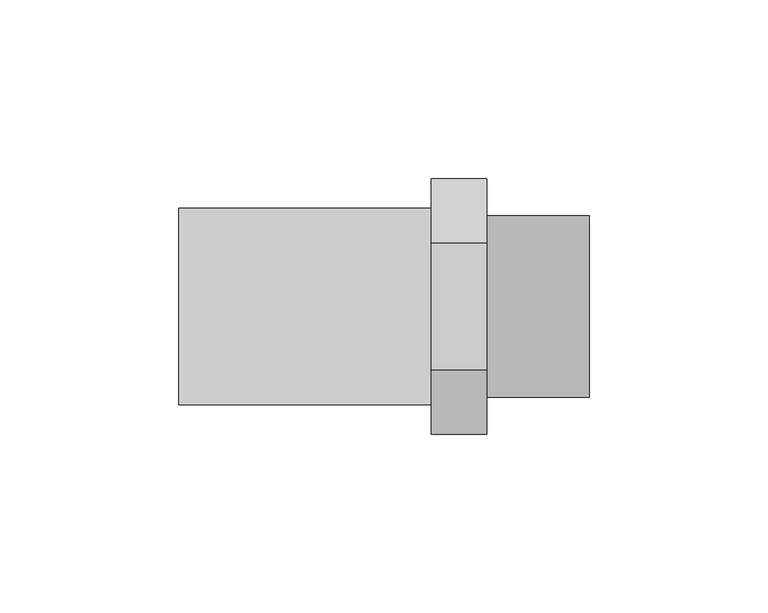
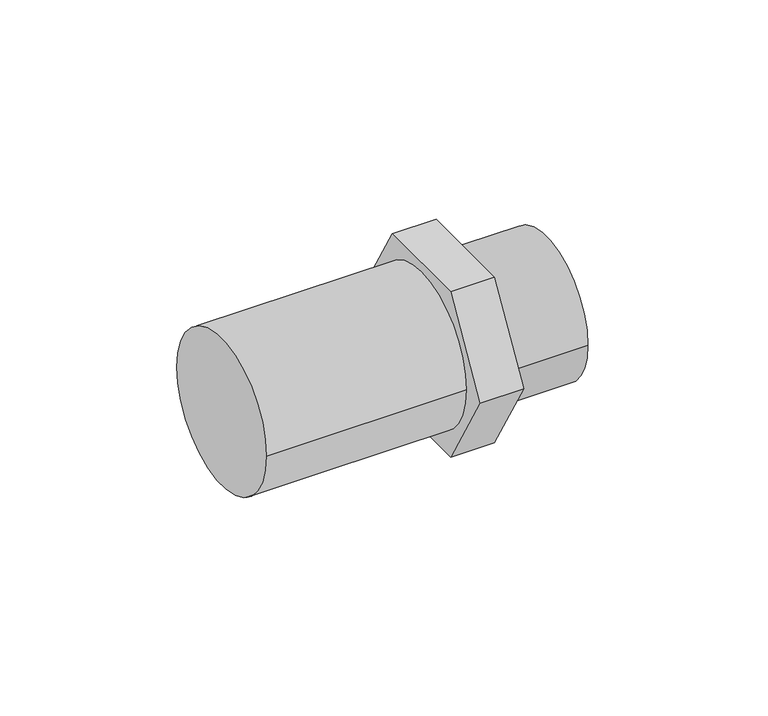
"""IFC4 building model written with IfcOpenShell, lengths in millimetres: pipe fitting geometry, 01011113 : Douilles."""

from ifc_helpers import new_model, si_unit, point, frame, origin, origin_2d, place, context, project, spatial, circle_curve, trimmed, segment, composite_curve, outline, extrude, source, transform, mapped, element, save
from ifc_brep_helpers import plane_surface, cylinder_surface, advanced_brep


def pipe_fitting_5d0e209c(model_context):
    return source(origin(), model_context, "Body", "SolidModel", [
        extrude(outline(composite_curve([segment(trimmed(circle_curve(origin_2d(), 27.5), [point((27.5, 0.0))], [point((-27.5, 0.0))], False, "CARTESIAN"), True, "CONTINUOUS"), segment(trimmed(circle_curve(origin_2d(), 27.5), [point((-27.5, 0.0))], [point((27.5, 0.0))], False, "CARTESIAN"), True, "CONTINUOUS")], self_intersect=False)), frame((-57.5, 0.0, 0.0), z_axis=(1.0, 0.0, 0.0), x_axis=(0.0, 1.0, 0.0)), (0.0, 0.0, 1.0), 70.75),
        advanced_brep(
        [(28.75, -17.8978583, 31.0), (28.75, -35.7957167, 0.0), (28.75, -17.8978583, -31.0), (28.75, 17.8978583, -31.0), (28.75, 35.7957167, 0.0), (28.75, 17.8978583, 31.0), (28.75, -25.4, 0.0), (28.75, 25.4, 0.0), (13.25, -17.8978583, 31.0), (13.25, 17.8978583, 31.0), (13.25, 35.7957167, 0.0), (13.25, 17.8978583, -31.0), (13.25, -17.8978583, -31.0), (13.25, -35.7957167, 0.0), (57.5, -25.4, 0.0), (57.5, 25.4, 0.0)],
        [
            (0, 1),
            (1, 2),
            (2, 3),
            (3, 4),
            (4, 5),
            (5, 0),
            (6, 7, circle_curve(frame((28.75, 0.0, 0.0), z_axis=(-1.0, 0.0, 0.0), x_axis=(0.0, 1.0, 0.0)), 25.4)),
            (7, 6, circle_curve(frame((28.75, 0.0, 0.0), z_axis=(-1.0, 0.0, 0.0), x_axis=(0.0, 1.0, 0.0)), 25.4)),
            (8, 9),
            (9, 10),
            (10, 11),
            (11, 12),
            (12, 13),
            (13, 8),
            (0, 8),
            (13, 1),
            (12, 2),
            (11, 3),
            (10, 4),
            (9, 5),
            (14, 15, circle_curve(frame((57.5, 0.0, 0.0), z_axis=(1.0, 0.0, 0.0), x_axis=(0.0, 1.0, 0.0)), 25.4)),
            (15, 14, circle_curve(frame((57.5, 0.0, 0.0), z_axis=(1.0, 0.0, 0.0), x_axis=(0.0, 1.0, 0.0)), 25.4)),
            (15, 7),
            (6, 14),
        ],
        [
            plane_surface(frame((28.75, -17.8978583, 31.0), z_axis=(1.0000000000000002, 0.0, 0.0), x_axis=(0.0, -0.5000000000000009, -0.8660254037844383))),
            plane_surface(frame((13.25, -17.8978583, 31.0), z_axis=(-1.0000000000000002, 0.0, 0.0), x_axis=(0.0, 0.5000000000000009, 0.8660254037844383))),
            plane_surface(frame((28.75, -17.8978583, 31.0), z_axis=(0.0, -0.8660254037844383, 0.5000000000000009), x_axis=(-1.0, 0.0, 0.0))),
            plane_surface(frame((28.75, -35.7957167, 0.0), z_axis=(0.0, -0.866025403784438, -0.5000000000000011), x_axis=(-1.0, 0.0, 0.0))),
            plane_surface(frame((28.75, -17.8978583, -31.0), z_axis=(0.0, 0.0, -1.0), x_axis=(-1.0, 0.0, 0.0))),
            plane_surface(frame((28.75, 17.8978583, -31.0), z_axis=(0.0, 0.8660254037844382, -0.5000000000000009), x_axis=(-1.0, 0.0, 0.0))),
            plane_surface(frame((28.75, 35.7957167, 0.0), z_axis=(0.0, 0.8660254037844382, 0.500000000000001), x_axis=(-1.0, 0.0, 0.0))),
            plane_surface(frame((28.75, 17.8978583, 31.0), z_axis=(0.0, 0.0, 1.0), x_axis=(-1.0, 0.0, 0.0))),
            plane_surface(frame((57.5, 0.0, 0.0), z_axis=(1.0, 0.0, 0.0), x_axis=(0.0, 0.0, 1.0))),
            cylinder_surface(frame((28.75, 0.0, 0.0), z_axis=(-1.0, 0.0, 0.0), x_axis=(0.0, 1.0, 0.0)), 25.4),
        ],
        [
            (0, [[1, 2, 3, 4, 5, 6], [7, 8]]),
            (1, [[9, 10, 11, 12, 13, 14]]),
            (2, [[-1, 15, -14, 16]]),
            (3, [[-2, -16, -13, 17]]),
            (4, [[-3, -17, -12, 18]]),
            (5, [[-4, -18, -11, 19]]),
            (6, [[-5, -19, -10, 20]]),
            (7, [[-6, -20, -9, -15]]),
            (8, [[21, 22]]),
            (9, [[-22, 23, -7, 24]]),
            (9, [[-21, -24, -8, -23]]),
        ],
    ),
    ])


if __name__ == "__main__":
    model = new_model("IFC4")
    model_context = context("Model", 3, world=origin())
    ifc_project = project(units=[si_unit("LENGTHUNIT", "METRE", prefix="MILLI")], contexts=[model_context])
    site = spatial("IfcSite", under=ifc_project)
    building = spatial("IfcBuilding", under=site)
    placement = place(None, origin())
    pipe_fitting_shape = pipe_fitting_5d0e209c(model_context)
    element("IfcPipeFitting", 1, ObjectType="01011113 : Douilles", at=placement, inside=building, context=model_context, shape_type="MappedRepresentation", body=[
        mapped(pipe_fitting_shape, transform((0.0, 0.0, 0.0), x_axis=(1.0, 0.0, 0.0), y_axis=(0.0, 1.0, 0.0), z_axis=(0.0, 0.0, 1.0))),
    ])
    save(model, "model.ifc")
